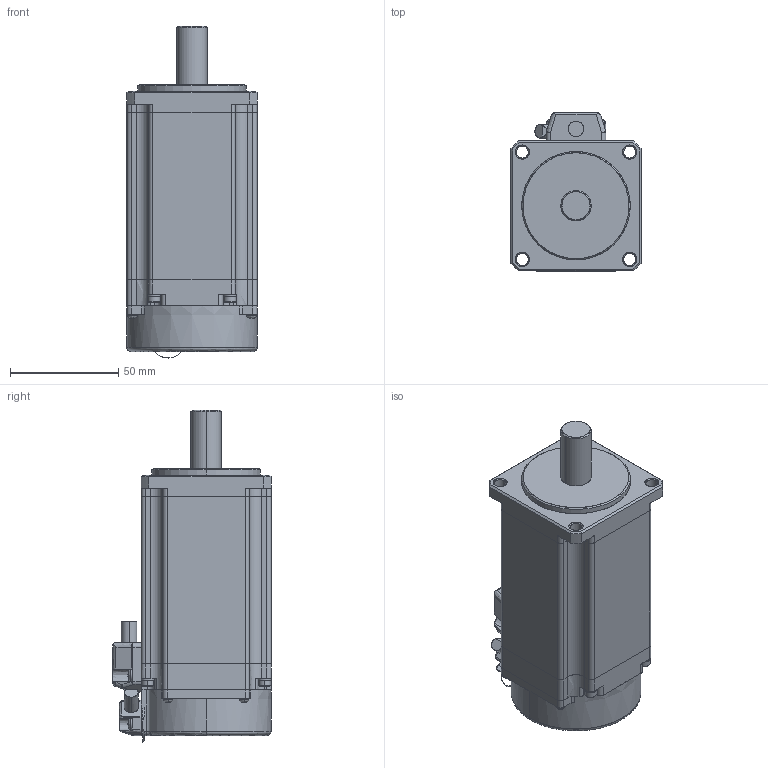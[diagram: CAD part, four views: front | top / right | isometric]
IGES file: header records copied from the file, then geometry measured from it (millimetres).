
Start section: SolidWorks IGES file using analytic representation for surfaces
Global section: file name: C:\Users\render\Documents\CAD Files\TamagawaMotors\TBL-iII-Series-14.5~80\TS4610\TS4610.IGS; native system: SolidWorks 2009; preprocessor: SolidWorks 2009; author: render; date: 100806.101943; units: millimetre
Bounding box: 60 x 73 x 153.04 mm (x, y, z)
Surface area: 57591.7 mm2 (no closed solid volume)
Topology: 0 solids, 0 shells, 710 faces, 6693 edges, 6672 vertices
Faces by surface type: bspline 362, revolution 348
